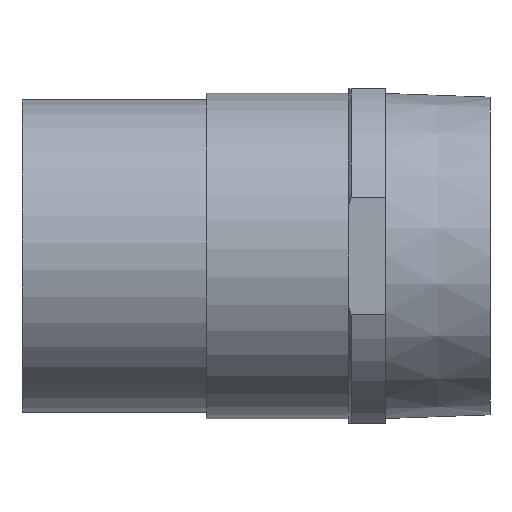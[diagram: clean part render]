
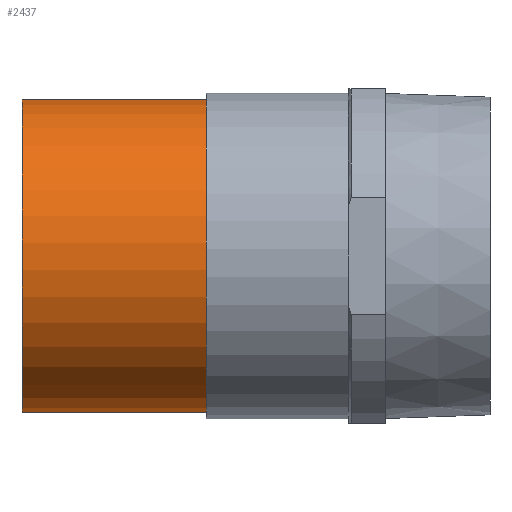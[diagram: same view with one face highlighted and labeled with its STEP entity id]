
A CAD part, front view. The second image highlights one B-rep face of the part: STEP entity #2437.
In plain terms, the highlighted cylindrical face has radius 55.25 mm (diameter 110.5 mm), a partial arc.
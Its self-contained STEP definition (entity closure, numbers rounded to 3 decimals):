
#71 = AXIS2_PLACEMENT_3D ( 'NONE', #950, #951, #959 ) ;
#115 = CARTESIAN_POINT ( 'NONE',  ( -125., -5.089, 55.015 ) ) ;
#244 = CARTESIAN_POINT ( 'NONE',  ( -125., 5.089, -55.015 ) ) ;
#246 = CARTESIAN_POINT ( 'NONE',  ( -10., -5.089, 55.015 ) ) ;
#247 = CARTESIAN_POINT ( 'NONE',  ( -10., 5.089, -55.015 ) ) ;
#607 = FACE_OUTER_BOUND ( 'NONE', #2200, .T. ) ;
#615 = CYLINDRICAL_SURFACE ( 'NONE', #71, 55.25 ) ;
#950 = CARTESIAN_POINT ( 'NONE',  ( -125., 0., 0. ) ) ;
#951 = DIRECTION ( 'NONE',  ( 1., 0., 0. ) ) ;
#959 = DIRECTION ( 'NONE',  ( 0., 0.092, -0.996 ) ) ;
#1001 = DIRECTION ( 'NONE',  ( 1., 0., 0. ) ) ;
#1002 = DIRECTION ( 'NONE',  ( 1., 0., 0. ) ) ;
#1003 = CARTESIAN_POINT ( 'NONE',  ( -125., -5.089, 55.015 ) ) ;
#1007 = CARTESIAN_POINT ( 'NONE',  ( -125., 5.089, -55.015 ) ) ;
#1011 = CARTESIAN_POINT ( 'NONE',  ( -125., 0., 0. ) ) ;
#1012 = DIRECTION ( 'NONE',  ( -1., 0., 0. ) ) ;
#1013 = DIRECTION ( 'NONE',  ( 0., -0.092, 0.996 ) ) ;
#1019 = CARTESIAN_POINT ( 'NONE',  ( -10., 0., 0. ) ) ;
#1020 = DIRECTION ( 'NONE',  ( -1., 0., 0. ) ) ;
#1021 = DIRECTION ( 'NONE',  ( 0., -0.092, 0.996 ) ) ;
#1226 = CIRCLE ( 'NONE', #2070, 55.25 ) ;
#1227 = LINE ( 'NONE', #1003, #1228 ) ;
#1228 = VECTOR ( 'NONE', #1001, 1000. ) ;
#1229 = LINE ( 'NONE', #1007, #1231 ) ;
#1231 = VECTOR ( 'NONE', #1002, 1000. ) ;
#1233 = CIRCLE ( 'NONE', #2072, 55.25 ) ;
#1591 = ORIENTED_EDGE ( 'NONE', *, *, #1666, .F. ) ;
#1592 = ORIENTED_EDGE ( 'NONE', *, *, #1669, .F. ) ;
#1593 = ORIENTED_EDGE ( 'NONE', *, *, #1668, .T. ) ;
#1594 = ORIENTED_EDGE ( 'NONE', *, *, #1671, .T. ) ;
#1666 = EDGE_CURVE ( 'NONE', #2207, #2336, #1227, .T. ) ;
#1668 = EDGE_CURVE ( 'NONE', #2333, #2337, #1229, .T. ) ;
#1669 = EDGE_CURVE ( 'NONE', #2333, #2207, #1226, .T. ) ;
#1671 = EDGE_CURVE ( 'NONE', #2337, #2336, #1233, .T. ) ;
#2070 = AXIS2_PLACEMENT_3D ( 'NONE', #1011, #1012, #1013 ) ;
#2072 = AXIS2_PLACEMENT_3D ( 'NONE', #1019, #1020, #1021 ) ;
#2200 = EDGE_LOOP ( 'NONE', ( #1591, #1592, #1593, #1594 ) ) ;
#2207 = VERTEX_POINT ( 'NONE', #115 ) ;
#2333 = VERTEX_POINT ( 'NONE', #244 ) ;
#2336 = VERTEX_POINT ( 'NONE', #246 ) ;
#2337 = VERTEX_POINT ( 'NONE', #247 ) ;
#2437 = ADVANCED_FACE ( 'NONE', ( #607 ), #615, .T. ) ;
